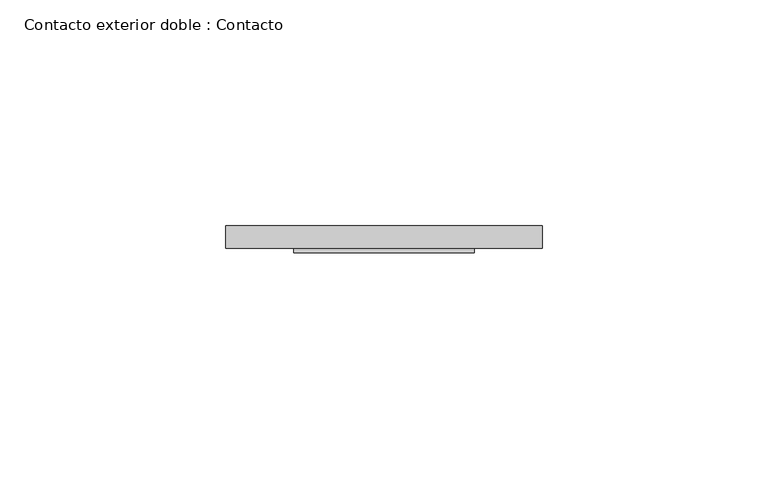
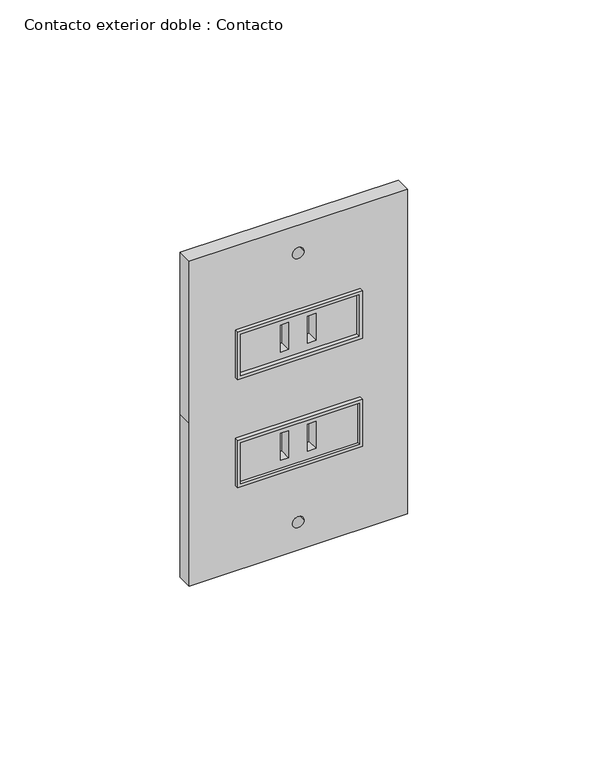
"""IFC4 building model written with IfcOpenShell, lengths in millimetres: proxy geometry, Contacto exterior doble : Contacto."""

import ifcopenshell
import ifcopenshell.guid

model = None  # the IFC model being written
_history = None  # IfcOwnerHistory: only IFC2X3 demands one
_inside = {}  # id of a spatial element -> (the spatial element, [elements in it])
_under = {}  # id of a project, library or spatial element -> (it, [spatial elements below it])
_declared = {}  # id of a project -> (the project, [libraries it declares])
_typed = {}  # id of a type object -> (the type object, [elements of that type])
_made_of = {}  # id of a material, layer set ... -> (it, [elements and type objects made of it])


def new_model(schema):
    """Start an empty IFC model of exactly this schema.

    Asked for "IFC4X3", IfcOpenShell would pick the latest addendum, in which some entities
    have other attributes; the version numbers below select the first issue.
    IFC2X3 requires an IfcOwnerHistory on every rooted entity: one is made here for all.
    """
    global model, _history
    if schema == "IFC4X3":
        model = ifcopenshell.file(schema_version=(4, 3, 0, 0))
    else:
        model = ifcopenshell.file(schema=schema)
    _inside.clear()
    _under.clear()
    _declared.clear()
    _typed.clear()
    _made_of.clear()
    _history = None
    if model.schema == "IFC2X3":
        org = make("IfcOrganization", Name="unknown")
        user = make(
            "IfcPersonAndOrganization",
            ThePerson=make("IfcPerson", FamilyName="unknown"),
            TheOrganization=org,
        )
        app = make(
            "IfcApplication",
            ApplicationDeveloper=org,
            Version="unknown",
            ApplicationFullName="unknown",
            ApplicationIdentifier="unknown",
        )
        _history = make(
            "IfcOwnerHistory",
            OwningUser=user,
            OwningApplication=app,
            ChangeAction="ADDED",
            CreationDate=0,
        )
    return model


def make(cls, **values):
    """One entity of the class cls with the attributes given. An attribute that is None is left unset."""
    return model.create_entity(
        cls, **{name: value for name, value in values.items() if value is not None}
    )


def rooted(cls, **values):
    """An entity with a GlobalId (a new one), such as an element, a storey or a relation."""
    return make(cls, GlobalId=ifcopenshell.guid.new(), OwnerHistory=_history, **values)


def si_unit(unit_type, name, prefix=None):
    """IfcSIUnit, for example si_unit("LENGTHUNIT", "METRE", prefix="MILLI")."""
    return make("IfcSIUnit", UnitType=unit_type, Prefix=prefix, Name=name)


def assignment(units):
    """IfcUnitAssignment: the units of a project."""
    return None if units is None else make("IfcUnitAssignment", Units=units)


def point(xyz):
    """IfcCartesianPoint."""
    return None if xyz is None else make("IfcCartesianPoint", Coordinates=xyz)


def direction(xyz):
    """IfcDirection."""
    return None if xyz is None else make("IfcDirection", DirectionRatios=xyz)


def frame(location, z_axis=None, x_axis=None):
    """IfcAxis2Placement3D, a coordinate frame: its origin and axes. An axis left out is left unset."""
    return make(
        "IfcAxis2Placement3D",
        Location=point(location),
        Axis=direction(z_axis),
        RefDirection=direction(x_axis),
    )


def frame_2d(location, x_axis=None):
    """IfcAxis2Placement2D, a coordinate frame in the plane: its origin and x axis."""
    return make(
        "IfcAxis2Placement2D", Location=point(location), RefDirection=direction(x_axis)
    )


def origin():
    """The frame at (0, 0, 0) with its axes left unset."""
    return frame((0.0, 0.0, 0.0))


def place(relative_to, where):
    """IfcLocalPlacement: puts the frame where relative to a parent placement (None: the world)."""
    return make(
        "IfcLocalPlacement", PlacementRelTo=relative_to, RelativePlacement=where
    )


def context(
    kind, dimensions, precision=None, world=None, true_north=None, identifier=None
):
    """IfcGeometricRepresentationContext, for example the 3D "Model" context."""
    return make(
        "IfcGeometricRepresentationContext",
        ContextIdentifier=identifier,
        ContextType=kind,
        CoordinateSpaceDimension=dimensions,
        Precision=precision,
        WorldCoordinateSystem=world,
        TrueNorth=true_north,
    )


def project(units=None, contexts=None):
    """IfcProject with its units and contexts."""
    return rooted(
        "IfcProject",
        Name="project",
        RepresentationContexts=contexts,
        UnitsInContext=assignment(units),
    )


def spatial(cls, under=None, at=None, **own):
    """A site, building, storey or space (cls), placed at a placement, below another one or the project."""
    s = rooted(cls, ObjectPlacement=at, **own)
    if under is not None:
        _under.setdefault(under.id(), (under, []))[1].append(s)
    return s


def polyline(points):
    """IfcPolyline through the points."""
    return make("IfcPolyline", Points=[point(p) for p in points])


def circle_curve(where, radius):
    """IfcCircle in the frame where."""
    return make("IfcCircle", Position=where, Radius=radius)


def trimmed(basis, trim1, trim2, sense, master):
    """IfcTrimmedCurve: the piece of a basis curve between two trims."""
    return make(
        "IfcTrimmedCurve",
        BasisCurve=basis,
        Trim1=trim1,
        Trim2=trim2,
        SenseAgreement=sense,
        MasterRepresentation=master,
    )


def segment(curve, same_sense, transition):
    """IfcCompositeCurveSegment."""
    return make(
        "IfcCompositeCurveSegment",
        Transition=transition,
        SameSense=same_sense,
        ParentCurve=curve,
    )


def composite_curve(segments, self_intersect=None):
    """IfcCompositeCurve: segments joined end to end."""
    return make("IfcCompositeCurve", Segments=segments, SelfIntersect=self_intersect)


def outline(outer, holes=None, kind="AREA"):
    """IfcArbitraryClosedProfileDef: a profile drawn as a closed curve; with holes, ...WithVoids."""
    if holes is None:
        return make("IfcArbitraryClosedProfileDef", ProfileType=kind, OuterCurve=outer)
    return make(
        "IfcArbitraryProfileDefWithVoids",
        ProfileType=kind,
        OuterCurve=outer,
        InnerCurves=holes,
    )


def extrude(swept, where, along, depth):
    """IfcExtrudedAreaSolid: the profile swept, set in the frame where, extruded along a direction by depth."""
    return make(
        "IfcExtrudedAreaSolid",
        SweptArea=swept,
        Position=where,
        ExtrudedDirection=direction(along),
        Depth=depth,
    )


def shape(context_of_items, identifier, shape_type, items):
    """IfcShapeRepresentation: the items that make up one representation, for example the "Body"."""
    return make(
        "IfcShapeRepresentation",
        ContextOfItems=context_of_items,
        RepresentationIdentifier=identifier,
        RepresentationType=shape_type,
        Items=items,
    )


def source(mapping_origin, context_of_items, identifier, shape_type, items):
    """IfcRepresentationMap: a shape defined once, which mapped items show again and again."""
    return make(
        "IfcRepresentationMap",
        MappingOrigin=mapping_origin,
        MappedRepresentation=shape(context_of_items, identifier, shape_type, items),
    )


def transform(
    local_origin,
    x_axis=None,
    y_axis=None,
    z_axis=None,
    scale=None,
    scale2=None,
    scale3=None,
    uniform=True,
):
    """IfcCartesianTransformationOperator3D, or its non-uniform kind. x_axis, y_axis, z_axis: its Axis1, 2, 3."""
    if uniform:
        return make(
            "IfcCartesianTransformationOperator3D",
            Axis1=direction(x_axis),
            Axis2=direction(y_axis),
            LocalOrigin=point(local_origin),
            Scale=scale,
            Axis3=direction(z_axis),
        )
    return make(
        "IfcCartesianTransformationOperator3DnonUniform",
        Axis1=direction(x_axis),
        Axis2=direction(y_axis),
        LocalOrigin=point(local_origin),
        Scale=scale,
        Axis3=direction(z_axis),
        Scale2=scale2,
        Scale3=scale3,
    )


def mapped(mapping_source, mapping_target):
    """IfcMappedItem: shows the shape of a source again, moved by a transform."""
    return make(
        "IfcMappedItem", MappingSource=mapping_source, MappingTarget=mapping_target
    )


def made_of(thing, what):
    """Note that an element or type object is made of a material, layer set ...; save() writes the relation."""
    if what is not None:
        _made_of.setdefault(what.id(), (what, []))[1].append(thing)
    return thing


def element(
    cls,
    number,
    at=None,
    inside=None,
    cuts=None,
    type_object=None,
    material=None,
    context=None,
    identifier="Body",
    shape_type=None,
    held_by="IfcProductDefinitionShape",
    body=None,
    shapes=None,
    **own,
):
    """One element of the class cls, such as IfcWall. Its Tag is "e" and its number.

    at: its placement. inside: the storey or other place that contains it. cuts: it is an
    opening in that element (IfcRelVoidsElement). A single representation is given by context,
    identifier, shape_type and body (its items); several are given by shapes. held_by: the class
    of the entity that holds the representations. save() writes the other relations.
    """
    e = rooted(cls, Tag="e%d" % number, ObjectPlacement=at, **own)
    if body is not None:
        shapes = [shape(context, identifier, shape_type, body)]
    if shapes is not None:
        e.Representation = make(held_by, Representations=shapes)
    if inside is not None:
        _inside.setdefault(inside.id(), (inside, []))[1].append(e)
    if cuts is not None:
        rooted(
            "IfcRelVoidsElement", RelatingBuildingElement=cuts, RelatedOpeningElement=e
        )
    if type_object is not None:
        _typed.setdefault(type_object.id(), (type_object, []))[1].append(e)
    return made_of(e, material)


def aggregate(whole, parts):
    """IfcRelAggregates: a whole, such as a stair, and the parts it consists of."""
    return rooted("IfcRelAggregates", RelatingObject=whole, RelatedObjects=parts)


def save(model, path):
    """Write the relations noted so far, then the file.

    IfcRelAggregates (storeys below a building ...), IfcRelContainedInSpatialStructure (elements
    in a storey), IfcRelDefinesByType, IfcRelAssociatesMaterial and IfcRelDeclares: one each for
    every whole, place, type object, material and project.
    """
    for whole, parts in _under.values():
        aggregate(whole, parts)
    for where, things in _inside.values():
        rooted(
            "IfcRelContainedInSpatialStructure",
            RelatedElements=things,
            RelatingStructure=where,
        )
    for kind, things in _typed.values():
        rooted("IfcRelDefinesByType", RelatedObjects=things, RelatingType=kind)
    for what, things in _made_of.values():
        rooted("IfcRelAssociatesMaterial", RelatedObjects=things, RelatingMaterial=what)
    for by, libraries in _declared.values():
        rooted("IfcRelDeclares", RelatingContext=by, RelatedDefinitions=libraries)
    model.write(path)


def contacto_exterior_doble_contacto_c3dac204(model_context):
    return source(origin(), model_context, "Body", "SweptSolid", [
        extrude(outline(polyline([(338.6666667, 106.0359807), (324.6666667, 106.0359807), (324.6666667, 144.0359807), (338.6666667, 144.0359807), (338.6666667, 106.0359807)]), holes=[polyline([(327.3652061, 121.9892242), (327.3652061, 119.3302678), (336.5176584, 119.3302678), (336.5176584, 121.9892242), (327.3652061, 121.9892242)]), polyline([(327.3652061, 128.0827373), (336.5176584, 128.0827373), (336.5176584, 130.7416937), (327.3652061, 130.7416937), (327.3652061, 128.0827373)])]), frame((0.0, -95.0, 0.0), z_axis=(0.0, 1.0, 0.0), x_axis=(0.0, 0.0, 1.0)), (0.0, 0.0, 1.0), 3.7974393),
        extrude(outline(polyline([(339.6666667, 145.0), (339.6666667, 105.0), (323.6666667, 105.0), (323.6666667, 145.0), (339.6666667, 145.0)]), holes=[polyline([(338.6666667, 144.0359807), (324.6666667, 144.0359807), (324.6666667, 105.9197769), (338.6666667, 105.9197769), (338.6666667, 144.0359807)])]), frame((0.0, -95.9684395, 0.0), z_axis=(0.0, 1.0, 0.0), x_axis=(0.0, 0.0, 1.0)), (0.0, 0.0, 1.0), 4.7658788),
        extrude(outline(polyline([(360.3333333, 145.0), (376.3333333, 145.0), (376.3333333, 105.0), (360.3333333, 105.0), (360.3333333, 145.0)]), holes=[polyline([(375.3333333, 106.0), (375.3333333, 144.0), (361.3333333, 144.0), (361.3333333, 106.0), (375.3333333, 106.0)])]), frame((0.0, -95.9684395, 0.0), z_axis=(0.0, 1.0, 0.0), x_axis=(0.0, 0.0, 1.0)), (0.0, 0.0, 1.0), 4.7658788),
        extrude(outline(polyline([(375.3333333, 106.0), (361.3333333, 106.0), (361.3333333, 144.0), (375.3333333, 144.0), (375.3333333, 106.0)]), holes=[polyline([(364.0318727, 121.9532435), (364.0318727, 119.2942871), (373.184325, 119.2942871), (373.184325, 121.9532435), (364.0318727, 121.9532435)]), polyline([(364.0318727, 128.0467565), (373.184325, 128.0467565), (373.184325, 130.7057129), (364.0318727, 130.7057129), (364.0318727, 128.0467565)])]), frame((0.0, -95.0, 0.0), z_axis=(0.0, 1.0, 0.0), x_axis=(0.0, 0.0, 1.0)), (0.0, 0.0, 1.0), 3.7974393),
        extrude(outline(polyline([(405.0, 160.0), (405.0, 90.0), (350.0, 90.0), (295.0, 90.0), (295.0, 160.0), (405.0, 160.0)]), holes=[composite_curve([segment(trimmed(circle_curve(frame_2d((395.5814465, 125.0)), 1.8475425), [point((395.5814465, 123.1524575))], [point((395.5814465, 126.8475425))], True, "CARTESIAN"), True, "CONTINUOUS"), segment(trimmed(circle_curve(frame_2d((395.5814465, 125.0)), 1.8475425), [point((395.5814465, 126.8475425))], [point((395.5814465, 123.1524575))], True, "CARTESIAN"), True, "CONTINUOUS")], self_intersect=False), composite_curve([segment(trimmed(circle_curve(frame_2d((304.4185535, 125.0)), 1.8475425), [point((304.4185535, 123.1524575))], [point((304.4185535, 126.8475425))], True, "CARTESIAN"), True, "CONTINUOUS"), segment(trimmed(circle_curve(frame_2d((304.4185535, 125.0)), 1.8475425), [point((304.4185535, 126.8475425))], [point((304.4185535, 123.1524575))], True, "CARTESIAN"), True, "CONTINUOUS")], self_intersect=False), polyline([(339.6666667, 105.0), (339.6666667, 145.0), (323.6666667, 145.0), (323.6666667, 105.0), (339.6666667, 105.0)]), polyline([(376.3333333, 105.0), (376.3333333, 145.0), (360.3333333, 145.0), (360.3333333, 105.0), (376.3333333, 105.0)])]), frame((0.0, -95.0, 0.0), z_axis=(0.0, 1.0, 0.0), x_axis=(0.0, 0.0, 1.0)), (0.0, 0.0, 1.0), 5.0),
    ])


if __name__ == "__main__":
    model = new_model("IFC4")
    model_context = context("Model", 3, world=origin())
    ifc_project = project(units=[si_unit("LENGTHUNIT", "METRE", prefix="MILLI")], contexts=[model_context])
    site = spatial("IfcSite", under=ifc_project)
    building = spatial("IfcBuilding", under=site)
    placement = place(None, origin())
    contacto_exterior_doble_contacto_shape = contacto_exterior_doble_contacto_c3dac204(model_context)
    element("IfcBuildingElementProxy", 1, Name="Contacto exterior doble : Contacto", ObjectType="Contacto exterior doble : Contacto", at=placement, inside=building, context=model_context, shape_type="MappedRepresentation", body=[
        mapped(contacto_exterior_doble_contacto_shape, transform((0.0, 0.0, 0.0), x_axis=(1.0, 0.0, 0.0), y_axis=(0.0, 1.0, 0.0), z_axis=(0.0, 0.0, 1.0))),
    ])
    save(model, "model.ifc")
